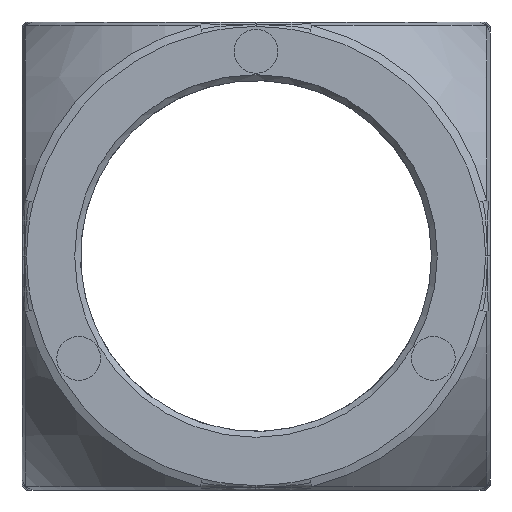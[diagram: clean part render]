
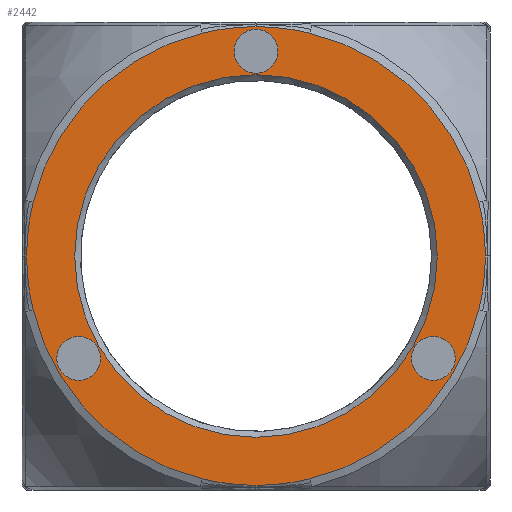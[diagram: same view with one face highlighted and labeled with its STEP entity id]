
A CAD part, front view. The second image highlights one B-rep face of the part: STEP entity #2442.
In plain terms, the highlighted planar face has unit normal (0, -1, 0).
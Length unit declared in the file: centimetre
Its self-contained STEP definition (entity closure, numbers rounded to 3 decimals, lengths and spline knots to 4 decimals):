
#79=FACE_BOUND('',#685,.T.);
#80=FACE_BOUND('',#686,.T.);
#81=FACE_BOUND('',#687,.T.);
#82=FACE_BOUND('',#688,.T.);
#124=PLANE('',#2656);
#236=CIRCLE('',#2502,1.225);
#237=CIRCLE('',#2503,1.225);
#239=CIRCLE('',#2505,1.225);
#240=CIRCLE('',#2506,1.225);
#247=CIRCLE('',#2513,1.225);
#251=CIRCLE('',#2517,1.225);
#252=CIRCLE('',#2518,1.225);
#296=CIRCLE('',#2570,1.225);
#307=CIRCLE('',#2586,1.225);
#312=CIRCLE('',#2593,1.225);
#314=CIRCLE('',#2596,1.225);
#320=CIRCLE('',#2605,1.225);
#354=CIRCLE('',#2657,0.9688);
#355=CIRCLE('',#2658,0.1172);
#356=CIRCLE('',#2659,0.1172);
#357=CIRCLE('',#2660,0.1172);
#496=FACE_OUTER_BOUND('',#684,.T.);
#684=EDGE_LOOP('',(#2133,#2134,#2135,#2136,#2137,#2138,#2139,#2140,#2141,
#2142,#2143,#2144));
#685=EDGE_LOOP('',(#2145));
#686=EDGE_LOOP('',(#2146));
#687=EDGE_LOOP('',(#2147));
#688=EDGE_LOOP('',(#2148));
#1050=VERTEX_POINT('',#3465);
#1051=VERTEX_POINT('',#3472);
#1053=VERTEX_POINT('',#3518);
#1062=VERTEX_POINT('',#3703);
#1063=VERTEX_POINT('',#3710);
#1065=VERTEX_POINT('',#3756);
#1092=VERTEX_POINT('',#4317);
#1093=VERTEX_POINT('',#4324);
#1110=VERTEX_POINT('',#4655);
#1111=VERTEX_POINT('',#4662);
#1113=VERTEX_POINT('',#4708);
#1198=VERTEX_POINT('',#6603);
#1224=VERTEX_POINT('',#6828);
#1225=VERTEX_POINT('',#6830);
#1226=VERTEX_POINT('',#6832);
#1227=VERTEX_POINT('',#6834);
#1271=EDGE_CURVE('',#1050,#1051,#236,.T.);
#1275=EDGE_CURVE('',#1053,#1050,#237,.T.);
#1287=EDGE_CURVE('',#1062,#1063,#239,.T.);
#1291=EDGE_CURVE('',#1065,#1062,#240,.T.);
#1328=EDGE_CURVE('',#1092,#1093,#247,.T.);
#1351=EDGE_CURVE('',#1110,#1111,#251,.T.);
#1355=EDGE_CURVE('',#1113,#1110,#252,.T.);
#1491=EDGE_CURVE('',#1198,#1092,#296,.T.);
#1504=EDGE_CURVE('',#1111,#1065,#307,.T.);
#1510=EDGE_CURVE('',#1063,#1053,#312,.T.);
#1512=EDGE_CURVE('',#1051,#1198,#314,.T.);
#1518=EDGE_CURVE('',#1093,#1113,#320,.T.);
#1552=EDGE_CURVE('',#1224,#1224,#354,.T.);
#1553=EDGE_CURVE('',#1225,#1225,#355,.T.);
#1554=EDGE_CURVE('',#1226,#1226,#356,.T.);
#1555=EDGE_CURVE('',#1227,#1227,#357,.T.);
#2133=ORIENTED_EDGE('',*,*,#1275,.F.);
#2134=ORIENTED_EDGE('',*,*,#1510,.F.);
#2135=ORIENTED_EDGE('',*,*,#1287,.F.);
#2136=ORIENTED_EDGE('',*,*,#1291,.F.);
#2137=ORIENTED_EDGE('',*,*,#1504,.F.);
#2138=ORIENTED_EDGE('',*,*,#1351,.F.);
#2139=ORIENTED_EDGE('',*,*,#1355,.F.);
#2140=ORIENTED_EDGE('',*,*,#1518,.F.);
#2141=ORIENTED_EDGE('',*,*,#1328,.F.);
#2142=ORIENTED_EDGE('',*,*,#1491,.F.);
#2143=ORIENTED_EDGE('',*,*,#1512,.F.);
#2144=ORIENTED_EDGE('',*,*,#1271,.F.);
#2145=ORIENTED_EDGE('',*,*,#1552,.F.);
#2146=ORIENTED_EDGE('',*,*,#1553,.T.);
#2147=ORIENTED_EDGE('',*,*,#1554,.T.);
#2148=ORIENTED_EDGE('',*,*,#1555,.T.);
#2442=ADVANCED_FACE('',(#496,#79,#80,#81,#82),#124,.T.);
#2502=AXIS2_PLACEMENT_3D('',#3473,#2764,#2765);
#2503=AXIS2_PLACEMENT_3D('',#3520,#2768,#2769);
#2505=AXIS2_PLACEMENT_3D('',#3711,#2777,#2778);
#2506=AXIS2_PLACEMENT_3D('',#3758,#2781,#2782);
#2513=AXIS2_PLACEMENT_3D('',#4325,#2811,#2812);
#2517=AXIS2_PLACEMENT_3D('',#4663,#2829,#2830);
#2518=AXIS2_PLACEMENT_3D('',#4710,#2833,#2834);
#2570=AXIS2_PLACEMENT_3D('',#6605,#2991,#2992);
#2586=AXIS2_PLACEMENT_3D('',#6697,#3025,#3026);
#2593=AXIS2_PLACEMENT_3D('',#6742,#3040,#3041);
#2596=AXIS2_PLACEMENT_3D('',#6745,#3046,#3047);
#2605=AXIS2_PLACEMENT_3D('',#6754,#3064,#3065);
#2656=AXIS2_PLACEMENT_3D('',#6827,#3166,#3167);
#2657=AXIS2_PLACEMENT_3D('',#6829,#3168,#3169);
#2658=AXIS2_PLACEMENT_3D('',#6831,#3170,#3171);
#2659=AXIS2_PLACEMENT_3D('',#6833,#3172,#3173);
#2660=AXIS2_PLACEMENT_3D('',#6835,#3174,#3175);
#2764=DIRECTION('center_axis',(0.,1.,0.));
#2765=DIRECTION('ref_axis',(1.,0.,0.));
#2768=DIRECTION('center_axis',(0.,1.,0.));
#2769=DIRECTION('ref_axis',(1.,0.,0.));
#2777=DIRECTION('center_axis',(0.,1.,0.));
#2778=DIRECTION('ref_axis',(0.,0.,1.));
#2781=DIRECTION('center_axis',(0.,1.,0.));
#2782=DIRECTION('ref_axis',(0.,0.,1.));
#2811=DIRECTION('center_axis',(0.,1.,0.));
#2812=DIRECTION('ref_axis',(0.,0.,-1.));
#2829=DIRECTION('center_axis',(0.,1.,0.));
#2830=DIRECTION('ref_axis',(-1.,0.,0.));
#2833=DIRECTION('center_axis',(0.,1.,0.));
#2834=DIRECTION('ref_axis',(-1.,0.,0.));
#2991=DIRECTION('center_axis',(0.,1.,0.));
#2992=DIRECTION('ref_axis',(0.,0.,-1.));
#3025=DIRECTION('center_axis',(0.,1.,0.));
#3026=DIRECTION('ref_axis',(0.,0.,1.));
#3040=DIRECTION('center_axis',(0.,1.,0.));
#3041=DIRECTION('ref_axis',(0.,0.,1.));
#3046=DIRECTION('center_axis',(0.,1.,0.));
#3047=DIRECTION('ref_axis',(0.,0.,-1.));
#3064=DIRECTION('center_axis',(0.,1.,0.));
#3065=DIRECTION('ref_axis',(0.,0.,-1.));
#3166=DIRECTION('center_axis',(0.,-1.,0.));
#3167=DIRECTION('ref_axis',(1.,0.,0.));
#3168=DIRECTION('center_axis',(0.,-1.,0.));
#3169=DIRECTION('ref_axis',(-1.,0.,0.));
#3170=DIRECTION('center_axis',(0.,1.,0.));
#3171=DIRECTION('ref_axis',(0.966,0.,-0.259));
#3172=DIRECTION('center_axis',(0.,1.,0.));
#3173=DIRECTION('ref_axis',(-0.259,0.,0.966));
#3174=DIRECTION('center_axis',(0.,1.,0.));
#3175=DIRECTION('ref_axis',(-0.707,0.,-0.707));
#3465=CARTESIAN_POINT('',(1.225,-1.25,0.));
#3472=CARTESIAN_POINT('',(1.1908,-1.25,-0.2873));
#3473=CARTESIAN_POINT('Origin',(0.,-1.25,0.));
#3518=CARTESIAN_POINT('',(1.1908,-1.25,0.2873));
#3520=CARTESIAN_POINT('Origin',(0.,-1.25,0.));
#3703=CARTESIAN_POINT('',(0.,-1.25,1.225));
#3710=CARTESIAN_POINT('',(0.2873,-1.25,1.1908));
#3711=CARTESIAN_POINT('Origin',(0.,-1.25,0.));
#3756=CARTESIAN_POINT('',(-0.2873,-1.25,1.1908));
#3758=CARTESIAN_POINT('Origin',(0.,-1.25,0.));
#4317=CARTESIAN_POINT('',(0.,-1.25,-1.225));
#4324=CARTESIAN_POINT('',(-0.2873,-1.25,-1.1908));
#4325=CARTESIAN_POINT('Origin',(0.,-1.25,0.));
#4655=CARTESIAN_POINT('',(-1.225,-1.25,0.));
#4662=CARTESIAN_POINT('',(-1.1908,-1.25,0.2873));
#4663=CARTESIAN_POINT('Origin',(0.,-1.25,0.));
#4708=CARTESIAN_POINT('',(-1.1908,-1.25,-0.2873));
#4710=CARTESIAN_POINT('Origin',(0.,-1.25,0.));
#6603=CARTESIAN_POINT('',(0.2873,-1.25,-1.1908));
#6605=CARTESIAN_POINT('Origin',(0.,-1.25,0.));
#6697=CARTESIAN_POINT('Origin',(0.,-1.25,0.));
#6742=CARTESIAN_POINT('Origin',(0.,-1.25,0.));
#6745=CARTESIAN_POINT('Origin',(0.,-1.25,0.));
#6754=CARTESIAN_POINT('Origin',(0.,-1.25,0.));
#6827=CARTESIAN_POINT('Origin',(-1.25,-1.25,0.));
#6828=CARTESIAN_POINT('',(0.9688,-1.25,0.));
#6829=CARTESIAN_POINT('Origin',(0.,-1.25,0.));
#6830=CARTESIAN_POINT('',(-1.0604,-1.25,-0.5165));
#6831=CARTESIAN_POINT('Origin',(-0.9472,-1.25,-0.5469));
#6832=CARTESIAN_POINT('',(0.9775,-1.25,-0.6601));
#6833=CARTESIAN_POINT('Origin',(0.9472,-1.25,-0.5469));
#6834=CARTESIAN_POINT('',(0.0829,-1.25,1.1766));
#6835=CARTESIAN_POINT('Origin',(0.,-1.25,1.0938));
